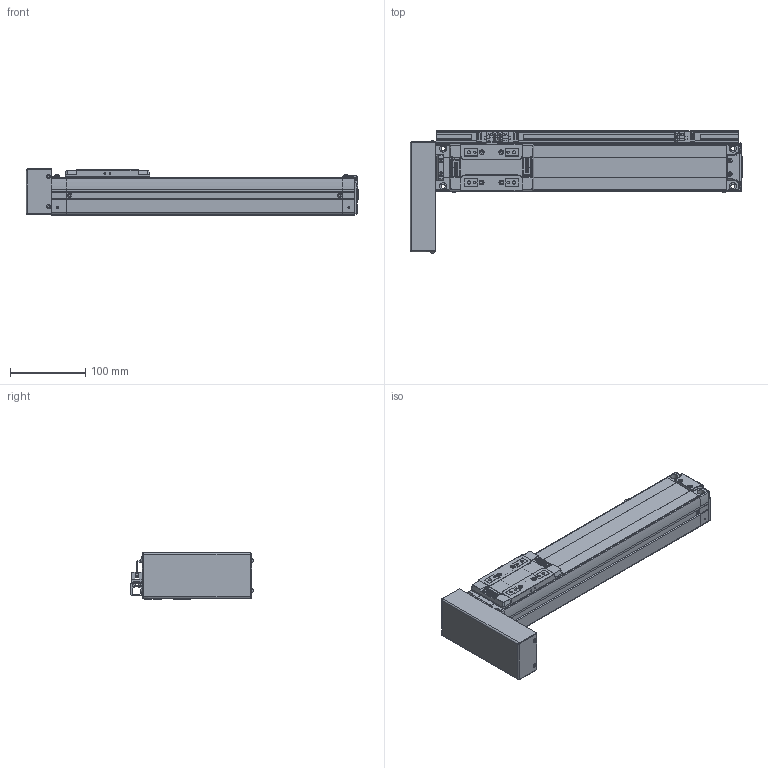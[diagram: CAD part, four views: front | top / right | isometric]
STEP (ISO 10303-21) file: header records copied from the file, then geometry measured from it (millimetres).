
FILE_DESCRIPTION(('STEP AP214'),'1');
FILE_NAME('Z:/Web/3D/SAN65/STP/SAN65ㅁㅁ-250PR+3SL.stp','2012-06-14T04:59:19',(' '),(' '),'Spatial InterOp 3D',' ',' ');
FILE_SCHEMA(('automotive_design'));
Length unit declared in the file: metre
Products named in the file (57): SAN65__-250; BODY-SAN65; REAR-SAN65; RRCV-SAN65; 스크루 : Round - M3.0 x 6.0; FRONT-SAN65; SHAFT-SAN65; RN8 x 0.75; SSFX-SAN65; SLIDE-SAN65; SLCV-SAN65; 스크루 : Countersunk - M3.0 x 6.0; ____205; PR; BTCV-SAN65; BHCS M3 X 6L; 3SL; SRL-16x17-450L; - OT; EE-SX674; SBK-SX674-352; HOME; + OT; DOG; SDG-SAN65; 스크루 : Round - M3.0 x 5.0
Assembly tree (56 placements, depth 4):
  ____205
    SAN65__-250
      BODY-SAN65
      REAR-SAN65
        REAR-SAN65
        RRCV-SAN65
        스크루 : Round - M3.0 x 6.0
        스크루 : Round - M3.0 x 6.0
        스크루 : Round - M3.0 x 6.0
        스크루 : Round - M3.0 x 6.0
        스크루 : Round - M3.0 x 6.0
        스크루 : Round - M3.0 x 6.0
      FRONT-SAN65
        FRONT-SAN65
        SHAFT-SAN65
        RN8 x 0.75
        SSFX-SAN65
        스크루 : Round - M3.0 x 6.0
        스크루 : Round - M3.0 x 6.0
        스크루 : Round - M3.0 x 6.0
        스크루 : Round - M3.0 x 6.0
      SLIDE-SAN65
        SLIDE-SAN65
        SLCV-SAN65
        스크루 : Countersunk - M3.0 x 6.0
        스크루 : Countersunk - M3.0 x 6.0
        스크루 : Countersunk - M3.0 x 6.0
        스크루 : Countersunk - M3.0 x 6.0
    PR
      BTCV-SAN65
      BHCS M3 X 6L
      BHCS M3 X 6L
      BHCS M3 X 6L
      BHCS M3 X 6L
    3SL
      SRL-16x17-450L
      스크루 : Round - M3.0 x 6.0
      스크루 : Round - M3.0 x 6.0
      - OT
        EE-SX674
        SBK-SX674-352
        스크루 : Round - M3.0 x 6.0
        스크루 : Round - M3.0 x 6.0
      HOME
        EE-SX674
        SBK-SX674-352
        스크루 : Round - M3.0 x 6.0
        스크루 : Round - M3.0 x 6.0
      + OT
        EE-SX674
        SBK-SX674-352
        스크루 : Round - M3.0 x 6.0
        스크루 : Round - M3.0 x 6.0
      DOG
        SDG-SAN65
        스크루 : Round - M3.0 x 5.0
        스크루 : Round - M3.0 x 5.0
Bounding box: 440.15 x 162.06 x 61 mm (x, y, z)
Volume: 1637378.2 mm3; surface area: 260026.3 mm2
Topology: 46 solids, 46 shells, 1943 faces, 4952 edges, 3228 vertices
Faces by surface type: plane 1292, cylinder 478, cone 89, sphere 36, bspline 30, torus 15, extrusion 3
Full cylindrical faces by diameter (mm): 0.571 x2, 0.706 x1, 1.727 x2, 2.132 x1, 2.2 x4, 2.5 x15, 2.528 x4, 3 x6, 3.121 x2, 3.3 x4, 3.4 x8, 3.5 x14, 4.2 x24, 4.849 x4, 5 x3, 5.5 x4, 5.987 x2, 6 x6, 6.35 x1, 6.5 x2, 7 x1, 8 x4, 9.5 x4, 13 x1, 15 x1, 19 x1, 26 x1, 38.1 x1
Entity records: 78353 total; most frequent: CARTESIAN_POINT 14913, DIRECTION 9737, ORIENTED_EDGE 9260, EDGE_CURVE 4630, VECTOR 3273, LINE 3270, AXIS2_PLACEMENT_3D 3232, VERTEX_POINT 3168
